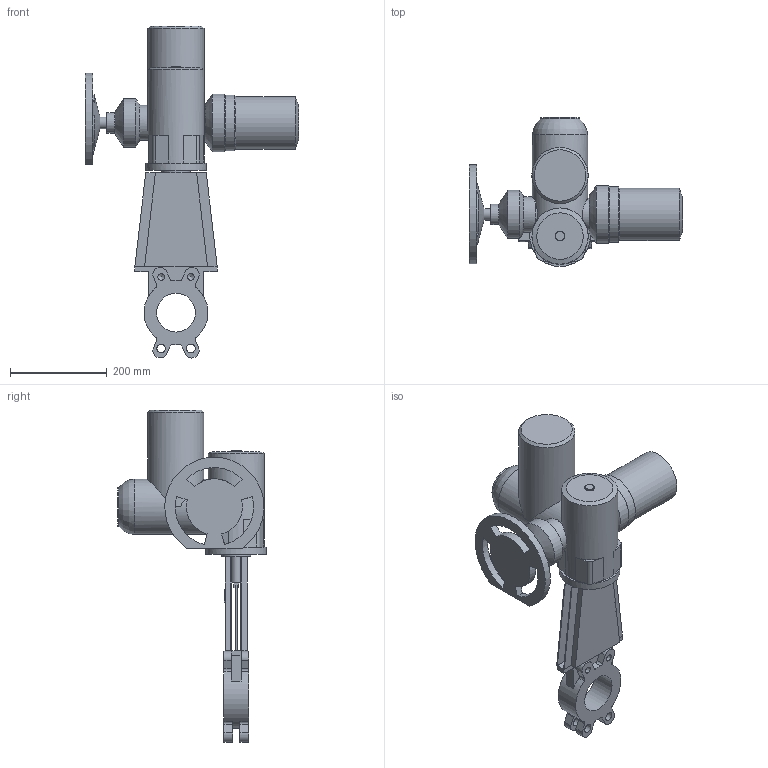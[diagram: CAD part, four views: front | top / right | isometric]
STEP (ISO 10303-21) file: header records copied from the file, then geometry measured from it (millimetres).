
FILE_DESCRIPTION(('STEP AP203'), '1');
FILE_NAME('K51GVA_DN80+MT903.A 07', '', ('UNSPECIFIED'), ('UNSPECIFIED'), 'ASCON STEP Converter 1.6', 'ASCON Math Kernel', '');
FILE_SCHEMA(('CONFIG_CONTROL_DESIGN'));
Length unit declared in the file: millimetre
Bounding box: 440 x 307.5 x 685.54 mm (x, y, z)
Volume: 9375460.5 mm3; surface area: 654582.8 mm2
Topology: 1 solids, 1 shells, 236 faces, 628 edges, 401 vertices
Faces by surface type: plane 139, cylinder 82, cone 14, torus 1
Full cylindrical faces by diameter (mm): 8.5 x4, 12 x4, 13.835 x4, 18 x4, 20 x2, 24 x1, 42 x1, 60 x1, 66 x1, 72 x1, 80 x2, 100 x1, 108 x1, 114 x1, 115 x1, 116 x2, 119 x1, 125 x1
Entity records: 10082 total; most frequent: CARTESIAN_POINT 2346, DIRECTION 1228, ORIENTED_EDGE 1150, EDGE_CURVE 575, AXIS2_PLACEMENT_3D 443, VERTEX_POINT 397, LINE 342, VECTOR 342
